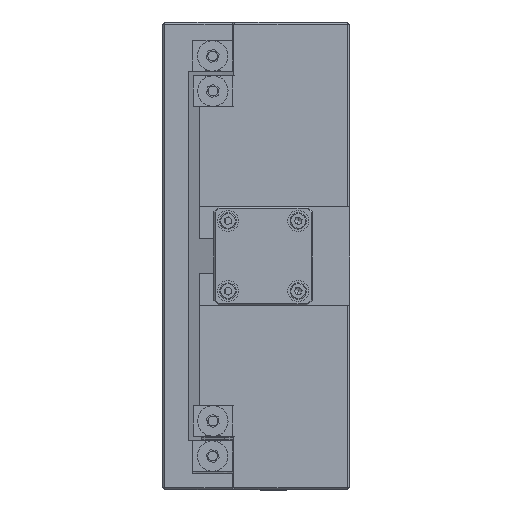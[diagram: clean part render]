
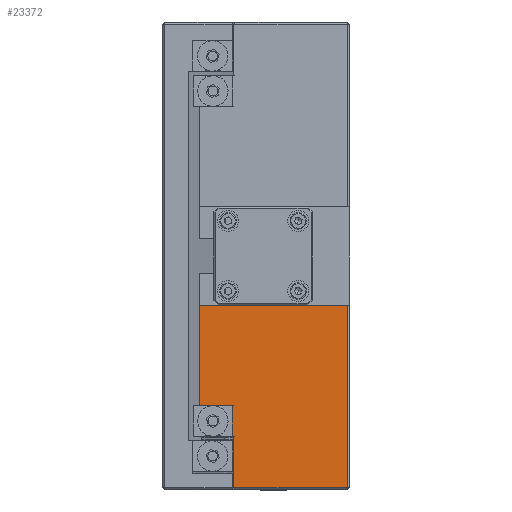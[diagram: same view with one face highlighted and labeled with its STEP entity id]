
A CAD part, left-side view. The second image highlights one B-rep face of the part: STEP entity #23372.
In plain terms, the highlighted planar face has unit normal (-1, 0, 0).
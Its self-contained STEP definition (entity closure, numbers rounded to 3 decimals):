
#1402 = VECTOR ( 'NONE', #5445, 1000. ) ;
#1969 = VECTOR ( 'NONE', #6251, 1000. ) ;
#2769 = VERTEX_POINT ( 'NONE', #4818 ) ;
#4818 = CARTESIAN_POINT ( 'NONE',  ( 912.071, 1023.597, 882.876 ) ) ;
#5445 = DIRECTION ( 'NONE',  ( 0., 0., -1. ) ) ;
#6251 = DIRECTION ( 'NONE',  ( 0., 0., -1. ) ) ;
#8900 = LINE ( 'NONE', #9193, #46626 ) ;
#9193 = CARTESIAN_POINT ( 'NONE',  ( 912.071, 1054.054, 917.876 ) ) ;
#10416 = VECTOR ( 'NONE', #29832, 1000. ) ;
#10530 = LINE ( 'NONE', #38598, #10416 ) ;
#13831 = CARTESIAN_POINT ( 'NONE',  ( 912.071, 1024.154, 917.876 ) ) ;
#14135 = EDGE_CURVE ( 'NONE', #2769, #52710, #45135, .T. ) ;
#15433 = LINE ( 'NONE', #43181, #32791 ) ;
#16475 = DIRECTION ( 'NONE',  ( 0., -1., 0. ) ) ;
#17585 = PLANE ( 'NONE',  #19529 ) ;
#17696 = CARTESIAN_POINT ( 'NONE',  ( 912.071, 1054.054, 904.876 ) ) ;
#17903 = VERTEX_POINT ( 'NONE', #60141 ) ;
#18360 = EDGE_CURVE ( 'NONE', #17903, #44582, #15433, .T. ) ;
#18742 = VERTEX_POINT ( 'NONE', #35204 ) ;
#19529 = AXIS2_PLACEMENT_3D ( 'NONE', #50034, #45663, #41275 ) ;
#20889 = CARTESIAN_POINT ( 'NONE',  ( 912.071, 1024.154, 917.876 ) ) ;
#21418 = ORIENTED_EDGE ( 'NONE', *, *, #47252, .T. ) ;
#21690 = EDGE_CURVE ( 'NONE', #28039, #2769, #10530, .T. ) ;
#22756 = ORIENTED_EDGE ( 'NONE', *, *, #39955, .F. ) ;
#23372 = ADVANCED_FACE ( 'NONE', ( #54385 ), #17585, .F. ) ;
#23461 = VERTEX_POINT ( 'NONE', #13831 ) ;
#24641 = LINE ( 'NONE', #20889, #1969 ) ;
#24999 = ORIENTED_EDGE ( 'NONE', *, *, #40225, .T. ) ;
#26504 = ORIENTED_EDGE ( 'NONE', *, *, #57677, .F. ) ;
#26581 = CARTESIAN_POINT ( 'NONE',  ( 912.071, 975.054, 960.876 ) ) ;
#26818 = ORIENTED_EDGE ( 'NONE', *, *, #21690, .T. ) ;
#27097 = VECTOR ( 'NONE', #16475, 1000. ) ;
#28039 = VERTEX_POINT ( 'NONE', #59805 ) ;
#29832 = DIRECTION ( 'NONE',  ( 0., 0., -1. ) ) ;
#32791 = VECTOR ( 'NONE', #34426, 1000. ) ;
#34426 = DIRECTION ( 'NONE',  ( 0., 1., 0. ) ) ;
#34530 = VECTOR ( 'NONE', #41699, 1000. ) ;
#35204 = CARTESIAN_POINT ( 'NONE',  ( 912.071, 1038.054, 917.876 ) ) ;
#38598 = CARTESIAN_POINT ( 'NONE',  ( 912.071, 1023.597, 904.876 ) ) ;
#38808 = LINE ( 'NONE', #48149, #1402 ) ;
#38811 = DIRECTION ( 'NONE',  ( 0., 1., 0. ) ) ;
#39955 = EDGE_CURVE ( 'NONE', #23461, #18742, #8900, .T. ) ;
#40225 = EDGE_CURVE ( 'NONE', #52710, #17903, #60283, .T. ) ;
#41275 = DIRECTION ( 'NONE',  ( 0., 0., -1. ) ) ;
#41699 = DIRECTION ( 'NONE',  ( 0., 1., 0. ) ) ;
#42280 = CARTESIAN_POINT ( 'NONE',  ( 912.071, 1038.054, 960.876 ) ) ;
#43181 = CARTESIAN_POINT ( 'NONE',  ( 912.071, 974.054, 960.876 ) ) ;
#44582 = VERTEX_POINT ( 'NONE', #42280 ) ;
#44847 = CARTESIAN_POINT ( 'NONE',  ( 912.071, 1054.054, 882.876 ) ) ;
#45135 = LINE ( 'NONE', #44847, #27097 ) ;
#45640 = DIRECTION ( 'NONE',  ( 0., 0., 1. ) ) ;
#45663 = DIRECTION ( 'NONE',  ( 1., 0., 0. ) ) ;
#46626 = VECTOR ( 'NONE', #38811, 1000. ) ;
#47252 = EDGE_CURVE ( 'NONE', #23461, #61265, #24641, .T. ) ;
#47322 = ORIENTED_EDGE ( 'NONE', *, *, #18360, .T. ) ;
#48149 = CARTESIAN_POINT ( 'NONE',  ( 912.071, 1038.054, 1081.876 ) ) ;
#50034 = CARTESIAN_POINT ( 'NONE',  ( 912.071, 1054.054, 881.876 ) ) ;
#52104 = CARTESIAN_POINT ( 'NONE',  ( 912.071, 1024.154, 904.876 ) ) ;
#52351 = CARTESIAN_POINT ( 'NONE',  ( 912.071, 975.054, 882.876 ) ) ;
#52710 = VERTEX_POINT ( 'NONE', #52351 ) ;
#53324 = ORIENTED_EDGE ( 'NONE', *, *, #54441, .T. ) ;
#53570 = VECTOR ( 'NONE', #45640, 1000. ) ;
#54385 = FACE_OUTER_BOUND ( 'NONE', #54436, .T. ) ;
#54436 = EDGE_LOOP ( 'NONE', ( #56421, #24999, #47322, #53324, #22756, #21418, #26504, #26818 ) ) ;
#54441 = EDGE_CURVE ( 'NONE', #44582, #18742, #38808, .T. ) ;
#56421 = ORIENTED_EDGE ( 'NONE', *, *, #14135, .T. ) ;
#57677 = EDGE_CURVE ( 'NONE', #28039, #61265, #60414, .T. ) ;
#59805 = CARTESIAN_POINT ( 'NONE',  ( 912.071, 1023.597, 904.876 ) ) ;
#60141 = CARTESIAN_POINT ( 'NONE',  ( 912.071, 975.054, 960.876 ) ) ;
#60283 = LINE ( 'NONE', #26581, #53570 ) ;
#60414 = LINE ( 'NONE', #17696, #34530 ) ;
#61265 = VERTEX_POINT ( 'NONE', #52104 ) ;
